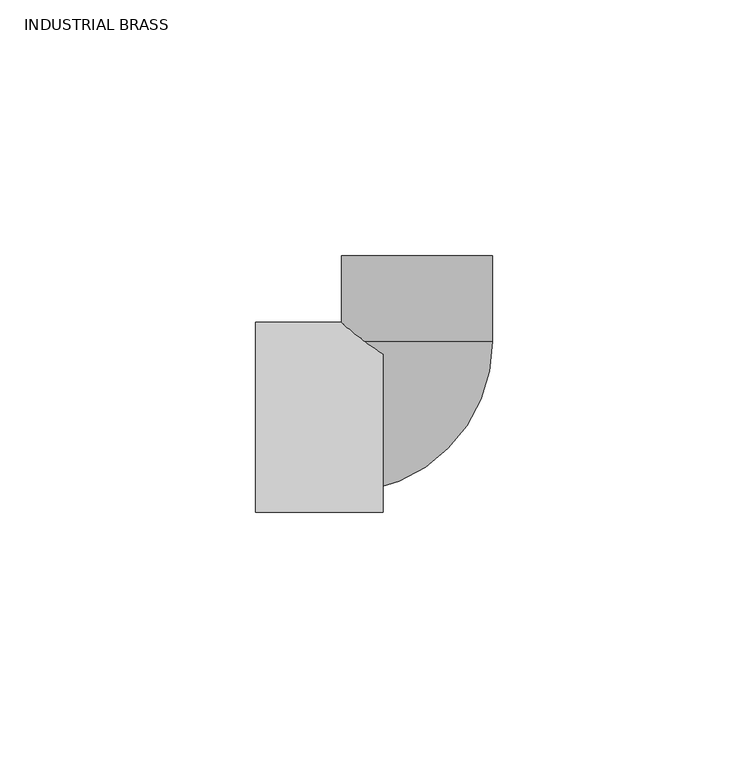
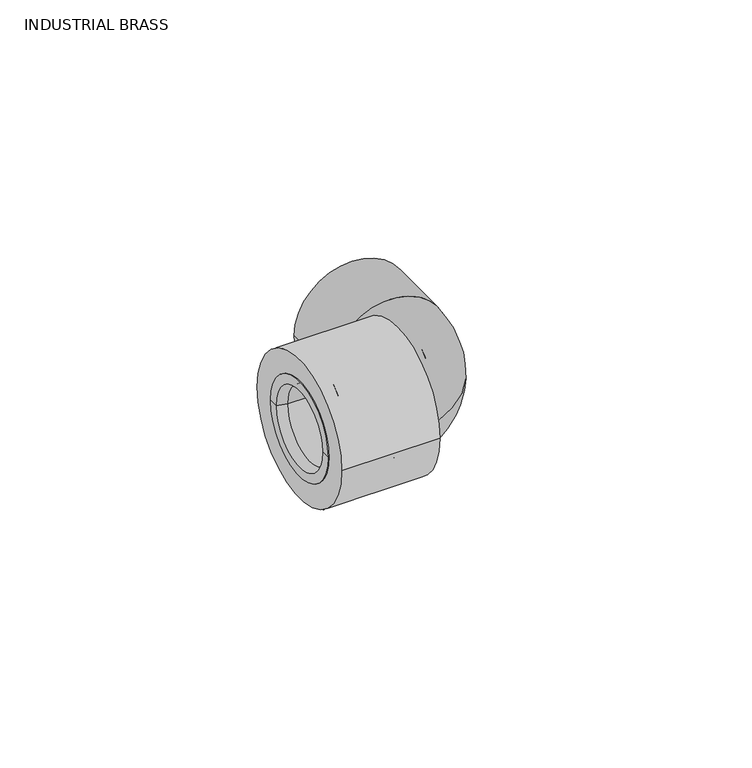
"""IFC4 building model written with IfcOpenShell, lengths in millimetres: valve geometry, Aquatherm - Elbow Transition PPR to F NPT : INDUSTRIAL BRASS."""

from ifc_helpers import new_model, si_unit, point, frame, origin, origin_2d, place, context, project, spatial, polyline, circle_curve, ellipse_curve, trimmed, segment, composite_curve, outline, extrude, source, transform, mapped, element, save
from ifc_brep_helpers import plane_surface, cylinder_surface, revolved_surface, advanced_brep


def industrial_brass_23ac0755(model_context):
    return source(origin(), model_context, "Body", "SolidModel", [
        advanced_brep(
        [(-18.796, -9.525, 0.0), (-18.796, 9.525, 0.0), (-28.9163125, 9.525, 0.0), (-28.9163125, -9.525, 0.0), (-18.796, -10.31875, 0.0), (-18.796, 10.31875, 0.0), (-15.621, -10.31875, 0.0), (-15.621, 10.31875, 0.0), (-15.621, -6.35, 0.0), (-15.621, 6.35, 0.0), (-12.446, -6.35, 0.0), (-12.446, 6.35, 0.0), (-12.446, -12.7, 0.0), (-12.446, 12.7, 0.0), (-31.496, -12.7, 0.0), (-31.496, 12.7, 0.0), (-31.496, -10.31875, 0.0), (-31.496, 10.31875, 0.0)],
        [
            (0, 1, circle_curve(frame((-18.796, 0.0, 0.0), z_axis=(1.0, 0.0, 0.0), x_axis=(0.0, 1.0, 0.0)), 9.525)),
            (1, 2),
            (2, 3, circle_curve(frame((-28.9163125, 0.0, 0.0), z_axis=(-1.0, 0.0, 0.0), x_axis=(0.0, 1.0, 0.0)), 9.525)),
            (3, 0),
            (1, 0, circle_curve(frame((-18.796, 0.0, 0.0), z_axis=(1.0, 0.0, 0.0), x_axis=(0.0, 1.0, 0.0)), 9.525)),
            (3, 2, circle_curve(frame((-28.9163125, 0.0, 0.0), z_axis=(-1.0, 0.0, 0.0), x_axis=(0.0, 1.0, 0.0)), 9.525)),
            (4, 5, circle_curve(frame((-18.796, 0.0, 0.0), z_axis=(1.0, 0.0, 0.0), x_axis=(0.0, 1.0, 0.0)), 10.31875)),
            (5, 1),
            (0, 4),
            (5, 4, circle_curve(frame((-18.796, 0.0, 0.0), z_axis=(1.0, 0.0, 0.0), x_axis=(0.0, 1.0, 0.0)), 10.31875)),
            (6, 7, circle_curve(frame((-15.621, 0.0, 0.0), z_axis=(1.0, 0.0, 0.0), x_axis=(0.0, 1.0, 0.0)), 10.31875)),
            (7, 5),
            (4, 6),
            (7, 6, circle_curve(frame((-15.621, 0.0, 0.0), z_axis=(1.0, 0.0, 0.0), x_axis=(0.0, 1.0, 0.0)), 10.31875)),
            (8, 9, circle_curve(frame((-15.621, 0.0, 0.0), z_axis=(1.0, 0.0, 0.0), x_axis=(0.0, 1.0, 0.0)), 6.35)),
            (9, 7),
            (6, 8),
            (9, 8, circle_curve(frame((-15.621, 0.0, 0.0), z_axis=(1.0, 0.0, 0.0), x_axis=(0.0, 1.0, 0.0)), 6.35)),
            (10, 11, circle_curve(frame((-12.446, 0.0, 0.0), z_axis=(1.0, 0.0, 0.0), x_axis=(0.0, 1.0, 0.0)), 6.35)),
            (11, 9),
            (8, 10),
            (11, 10, circle_curve(frame((-12.446, 0.0, 0.0), z_axis=(1.0, 0.0, 0.0), x_axis=(0.0, 1.0, 0.0)), 6.35)),
            (12, 13, circle_curve(frame((-12.446, 0.0, 0.0), z_axis=(1.0, 0.0, 0.0), x_axis=(0.0, 1.0, 0.0)), 12.7)),
            (13, 11),
            (10, 12),
            (13, 12, circle_curve(frame((-12.446, 0.0, 0.0), z_axis=(1.0, 0.0, 0.0), x_axis=(0.0, 1.0, 0.0)), 12.7)),
            (14, 15, circle_curve(frame((-31.496, 0.0, 0.0), z_axis=(1.0, 0.0, 0.0), x_axis=(0.0, 1.0, 0.0)), 12.7)),
            (15, 13),
            (12, 14),
            (15, 14, circle_curve(frame((-31.496, 0.0, 0.0), z_axis=(1.0, 0.0, 0.0), x_axis=(0.0, 1.0, 0.0)), 12.7)),
            (16, 17, circle_curve(frame((-31.496, 0.0, 0.0), z_axis=(1.0, 0.0, 0.0), x_axis=(0.0, 1.0, 0.0)), 10.31875)),
            (17, 15),
            (14, 16),
            (17, 16, circle_curve(frame((-31.496, 0.0, 0.0), z_axis=(1.0, 0.0, 0.0), x_axis=(0.0, 1.0, 0.0)), 10.31875)),
            (2, 17),
            (16, 3),
        ],
        [
            revolved_surface(polyline([(-28.9163125, 9.525, 0.0), (-18.796, 9.525, 0.0)]), (-33.3292251, 0.0, 0.0), (-1.0, 0.0, 0.0)),
            plane_surface(frame((-18.796, 0.0, 0.0), z_axis=(1.0, 0.0, 0.0), x_axis=(0.0, 1.0, 0.0))),
            revolved_surface(polyline([(-18.796, 10.31875, 0.0), (-15.621000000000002, 10.31875, 0.0)]), (-33.3292251, 0.0, 0.0), (-1.0, 0.0, 0.0)),
            plane_surface(frame((-15.621, 0.0, 0.0), z_axis=(-1.0, 0.0, 0.0), x_axis=(0.0, 1.0, 0.0))),
            revolved_surface(polyline([(-15.621000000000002, 6.35, 0.0), (-12.445999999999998, 6.35, 0.0)]), (-33.3292251, 0.0, 0.0), (-1.0, 0.0, 0.0)),
            plane_surface(frame((-12.446, 0.0, 0.0), z_axis=(1.0, 0.0, 0.0), x_axis=(0.0, 1.0, 0.0))),
            cylinder_surface(frame((-33.3292251, 0.0, 0.0), z_axis=(-1.0, 0.0, 0.0), x_axis=(0.0, 1.0, 0.0)), 12.7),
            plane_surface(frame((-31.496, 0.0, 0.0), z_axis=(-1.0, 0.0, 0.0), x_axis=(0.0, 1.0, 0.0))),
            revolved_surface(polyline([(-31.496, 10.31875, 0.0), (-28.9163125, 9.525, 0.0)]), (-33.3292251, 0.0, 0.0), (-1.0, 0.0, 0.0)),
        ],
        [
            (0, [[1, 2, 3, 4]]),
            (0, [[5, -4, 6, -2]]),
            (1, [[7, 8, -1, 9]]),
            (1, [[10, -9, -5, -8]]),
            (2, [[11, 12, -7, 13]]),
            (2, [[14, -13, -10, -12]]),
            (3, [[15, 16, -11, 17]]),
            (3, [[18, -17, -14, -16]]),
            (4, [[19, 20, -15, 21]]),
            (4, [[22, -21, -18, -20]]),
            (5, [[23, 24, -19, 25]]),
            (5, [[26, -25, -22, -24]]),
            (6, [[27, 28, -23, 29]]),
            (6, [[30, -29, -26, -28]]),
            (7, [[31, 32, -27, 33]]),
            (7, [[34, -33, -30, -32]]),
            (8, [[-3, 35, -31, 36]]),
            (8, [[-6, -36, -34, -35]]),
        ],
    ),
        advanced_brep(
        [(14.732, 14.732, 0.0), (-14.732, 14.732, 0.0), (6.35, 14.732, 0.0), (-6.35, 14.732, 0.0), (-14.732, -14.732, 0.0), (-14.732, -6.35, 0.0), (-14.732, 6.35, 0.0)],
        [
            (0, 1, circle_curve(frame((0.0, 14.732, 0.0), z_axis=(0.0, 1.0, 0.0), x_axis=(-1.0, 0.0, 0.0)), 14.732)),
            (1, 0, circle_curve(frame((0.0, 14.732, 0.0), z_axis=(0.0, 1.0, 0.0), x_axis=(-1.0, 0.0, 0.0)), 14.732)),
            (2, 3, circle_curve(frame((0.0, 14.732, 0.0), z_axis=(0.0, -1.0, 0.0), x_axis=(-1.0, 0.0, 0.0)), 6.35)),
            (3, 2, circle_curve(frame((0.0, 14.732, 0.0), z_axis=(0.0, -1.0, 0.0), x_axis=(-1.0, 0.0, 0.0)), 6.35)),
            (4, 1, circle_curve(frame((-14.732, 0.0, 0.0), z_axis=(-1.0, 0.0, 0.0), x_axis=(0.0, 1.0, 0.0)), 14.732)),
            (1, 4, circle_curve(frame((-14.732, 0.0, 0.0), z_axis=(-1.0, 0.0, 0.0), x_axis=(0.0, 1.0, 0.0)), 14.732)),
            (5, 6, circle_curve(frame((-14.732, 0.0, 0.0), z_axis=(1.0, 0.0, 0.0), x_axis=(0.0, 1.0, 0.0)), 6.35)),
            (6, 5, circle_curve(frame((-14.732, 0.0, 0.0), z_axis=(1.0, 0.0, 0.0), x_axis=(0.0, 1.0, 0.0)), 6.35)),
            (0, 4, circle_curve(frame((-14.732, 14.732, 0.0), z_axis=(0.0, 0.0, -1.0), x_axis=(1.0, 0.0, 0.0)), 29.464)),
            (6, 3, circle_curve(frame((-14.732, 14.732, 0.0), z_axis=(0.0, 0.0, 1.0), x_axis=(1.0, 0.0, 0.0)), 8.382)),
            (2, 5, circle_curve(frame((-14.732, 14.732, 0.0), z_axis=(0.0, 0.0, -1.0), x_axis=(1.0, 0.0, 0.0)), 21.082)),
        ],
        [
            plane_surface(frame((-14.732, 14.732, 41.9103543), z_axis=(0.0, 1.0, 0.0), x_axis=(1.0, 0.0, 0.0))),
            plane_surface(frame((-14.732, 14.732, 41.9103543), z_axis=(-1.0, 0.0, 0.0), x_axis=(0.0, -1.0, 0.0))),
            revolved_surface(trimmed(ellipse_curve(frame((0.0, 14.732, 0.0), z_axis=(0.0, 1.0, 0.0), x_axis=(-1.0, 0.0, 0.0)), 14.732, 14.732), [point((14.732, 14.732, 0.0))], [point((-14.732, 14.732, 0.0))], True, "CARTESIAN"), (-14.732, 14.732, 41.9103543), (0.0, 0.0, -1.0)),
            revolved_surface(trimmed(ellipse_curve(frame((0.0, 14.732, 0.0), z_axis=(0.0, 1.0, 0.0), x_axis=(-1.0, 0.0, 0.0)), 14.732, 14.732), [point((-14.732, 14.732, 0.0))], [point((14.732, 14.732, 0.0))], True, "CARTESIAN"), (-14.732, 14.732, 41.9103543), (0.0, 0.0, -1.0)),
            revolved_surface(trimmed(ellipse_curve(frame((0.0, 14.732, 0.0), z_axis=(0.0, -1.0, 0.0), x_axis=(-1.0, 0.0, 0.0)), 6.35, 6.35), [point((6.35, 14.732, 0.0))], [point((-6.35, 14.732, 0.0))], True, "CARTESIAN"), (-14.732, 14.732, 41.9103543), (0.0, 0.0, -1.0)),
            revolved_surface(trimmed(ellipse_curve(frame((0.0, 14.732, 0.0), z_axis=(0.0, -1.0, 0.0), x_axis=(-1.0, 0.0, 0.0)), 6.35, 6.35), [point((-6.35, 14.732, 0.0))], [point((6.35, 14.732, 0.0))], True, "CARTESIAN"), (-14.732, 14.732, 41.9103543), (0.0, 0.0, -1.0)),
        ],
        [
            (0, [[1, 2], [3, 4]]),
            (1, [[5, 6], [7, 8]]),
            (2, [[-1, 9, -6]]),
            (3, [[-9, -2, -5]]),
            (4, [[10, -3, 11, -8]]),
            (5, [[-11, -4, -10, -7]]),
        ],
    ),
        extrude(outline(composite_curve([segment(trimmed(circle_curve(origin_2d(), 14.732), [point((0.0, 14.732))], [point((0.0, -14.732))], False, "CARTESIAN"), True, "CONTINUOUS"), segment(trimmed(circle_curve(origin_2d(), 14.732), [point((0.0, -14.732))], [point((0.0, 14.732))], False, "CARTESIAN"), True, "CONTINUOUS")], self_intersect=False), holes=[composite_curve([segment(trimmed(circle_curve(origin_2d(), 10.033), [point((0.0, 10.033))], [point((0.0, -10.033))], True, "CARTESIAN"), True, "CONTINUOUS"), segment(trimmed(circle_curve(origin_2d(), 10.033), [point((0.0, -10.033))], [point((0.0, 10.033))], True, "CARTESIAN"), True, "CONTINUOUS")], self_intersect=False)]), frame((0.0, 14.732, 0.0), z_axis=(0.0, 1.0, 0.0), x_axis=(0.0, 0.0, 1.0)), (0.0, 0.0, 1.0), 16.764),
        extrude(outline(composite_curve([segment(trimmed(circle_curve(origin_2d(), 18.542), [point((-18.542, 0.0))], [point((18.542, 0.0))], False, "CARTESIAN"), True, "CONTINUOUS"), segment(trimmed(circle_curve(origin_2d(), 18.542), [point((18.542, 0.0))], [point((-18.542, 0.0))], False, "CARTESIAN"), True, "CONTINUOUS")], self_intersect=False), holes=[composite_curve([segment(trimmed(circle_curve(origin_2d(), 12.7), [point((-12.7, 0.0))], [point((12.7, 0.0))], True, "CARTESIAN"), True, "CONTINUOUS"), segment(trimmed(circle_curve(origin_2d(), 12.7), [point((12.7, 0.0))], [point((-12.7, 0.0))], True, "CARTESIAN"), True, "CONTINUOUS")], self_intersect=False)]), frame((-31.496, 0.0, 0.0), z_axis=(1.0, 0.0, 0.0), x_axis=(0.0, 1.0, 0.0)), (0.0, 0.0, 1.0), 24.892),
    ])


if __name__ == "__main__":
    model = new_model("IFC4")
    model_context = context("Model", 3, world=origin())
    ifc_project = project(units=[si_unit("LENGTHUNIT", "METRE", prefix="MILLI")], contexts=[model_context])
    site = spatial("IfcSite", under=ifc_project)
    building = spatial("IfcBuilding", under=site)
    placement = place(None, origin())
    industrial_brass_shape = industrial_brass_23ac0755(model_context)
    element("IfcValve", 1, ObjectType="Aquatherm - Elbow Transition PPR to F NPT : INDUSTRIAL BRASS", at=placement, inside=building, context=model_context, shape_type="MappedRepresentation", body=[
        mapped(industrial_brass_shape, transform((0.0, 0.0, 0.0), x_axis=(1.0, 0.0, 0.0), y_axis=(0.0, 1.0, 0.0), z_axis=(0.0, 0.0, 1.0))),
    ])
    save(model, "model.ifc")
